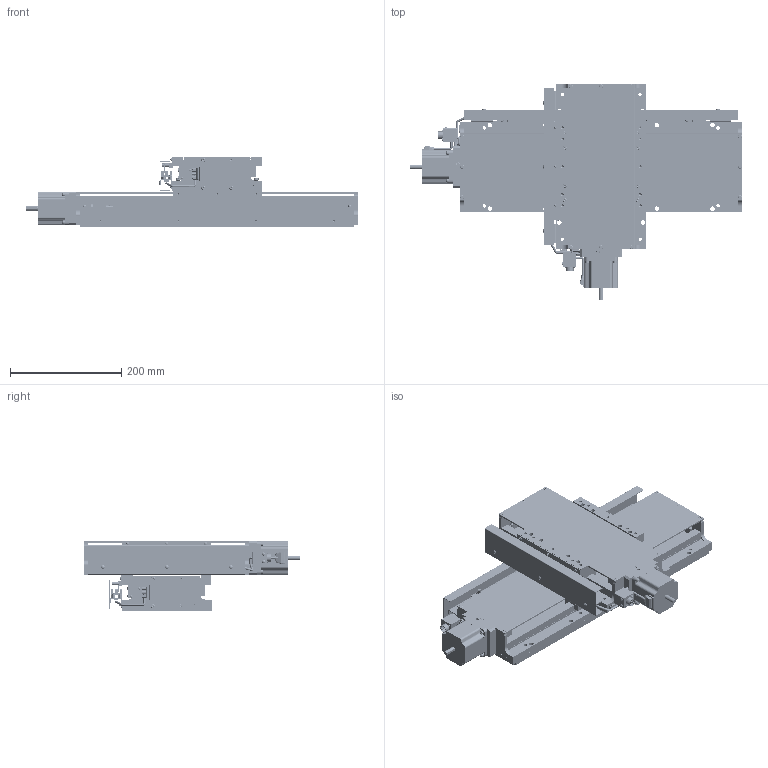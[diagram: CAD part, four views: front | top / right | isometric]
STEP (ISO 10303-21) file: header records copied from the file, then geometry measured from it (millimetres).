
FILE_DESCRIPTION( (''), '2;1');
FILE_NAME ('YA16F-L23101-RRR.stp','2021-01-05T15:27:14',(''),(''),'spGate 15.6.6','','');
FILE_SCHEMA (('AUTOMOTIVE_DESIGN'));
Length unit declared in the file: millimetre
Products named in the file (4): Assembly; YA16F-L23101-RRR-prt0; YA16F-L23101-RRR-prt1; YA16F-L23101-RRR-prt2
Assembly tree (3 placements, depth 2):
  Assembly
    YA16F-L23101-RRR-prt0
    YA16F-L23101-RRR-prt1
    YA16F-L23101-RRR-prt2
Bounding box: 596.5 x 386.5 x 127 mm (x, y, z)
Volume: 4580646.7 mm3; surface area: 1059916.7 mm2
Topology: 3 solids, 3 shells, 5113 faces, 12751 edges, 7931 vertices
Faces by surface type: plane 3071, cylinder 1214, bspline 764, sphere 64
Entity records: 257414 total; most frequent: CARTESIAN_POINT 38004, ORIENTED_EDGE 25142, DIRECTION 23374, COLOUR_RGB 17687, PRESENTATION_STYLE_ASSIGNMENT 17687, STYLED_ITEM 17687, EDGE_CURVE 12571, DRAUGHTING_PRE_DEFINED_CURVE_FONT 12571
